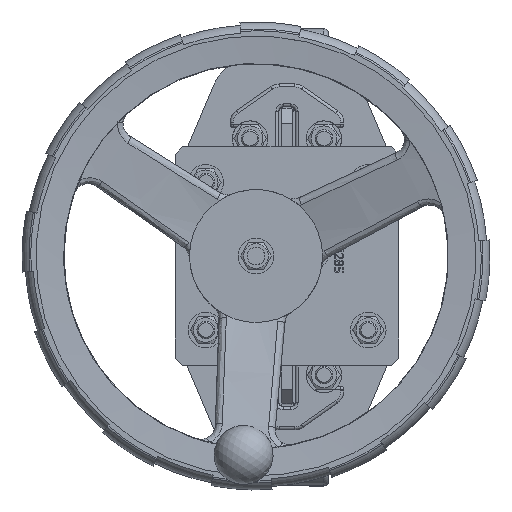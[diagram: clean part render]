
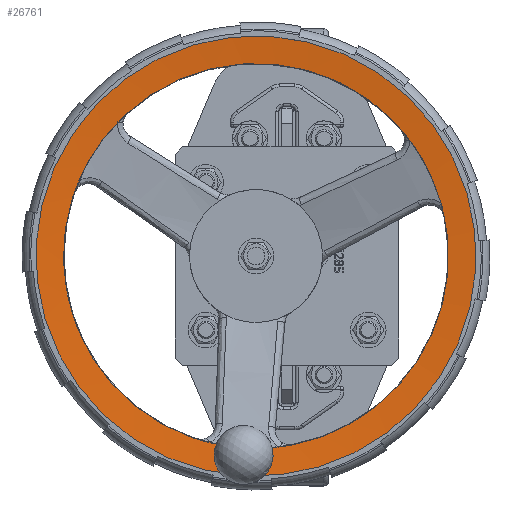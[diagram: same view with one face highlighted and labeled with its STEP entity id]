
A CAD part, top view. The second image highlights one B-rep face of the part: STEP entity #26761.
In plain terms, the highlighted conical face has half-angle 85 degrees and reference radius 139.655 mm.
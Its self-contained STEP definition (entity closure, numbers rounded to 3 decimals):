
#390=B_SPLINE_CURVE_WITH_KNOTS('',3,(#42391,#42392,#42393,#42394,#42395,
#42396,#42397),.UNSPECIFIED.,.F.,.F.,(4,3,4),(-0.377,0.,0.165),
 .UNSPECIFIED.);
#393=B_SPLINE_CURVE_WITH_KNOTS('',3,(#42408,#42409,#42410,#42411,#42412,
#42413),.UNSPECIFIED.,.F.,.F.,(4,2,4),(4.701,4.866,
5.243),.UNSPECIFIED.);
#1514=LINE('',#42542,#3399);
#3399=VECTOR('',#32006,139.654);
#5284=(
BOUNDED_CURVE()
B_SPLINE_CURVE(2,(#42473,#42474,#42475),.UNSPECIFIED.,.F.,.F.)
B_SPLINE_CURVE_WITH_KNOTS((3,3),(30.11,30.242),
 .UNSPECIFIED.)
CURVE()
GEOMETRIC_REPRESENTATION_ITEM()
RATIONAL_B_SPLINE_CURVE((1.105,1.066,1.026))
REPRESENTATION_ITEM('')
);
#5285=(
BOUNDED_CURVE()
B_SPLINE_CURVE(2,(#42535,#42536,#42537),.UNSPECIFIED.,.F.,.F.)
B_SPLINE_CURVE_WITH_KNOTS((3,3),(0.043,0.176),
 .UNSPECIFIED.)
CURVE()
GEOMETRIC_REPRESENTATION_ITEM()
RATIONAL_B_SPLINE_CURVE((1.026,1.066,1.105))
REPRESENTATION_ITEM('')
);
#5386=CONICAL_SURFACE('',#28514,139.654,1.484);
#5682=FACE_OUTER_BOUND('',#7346,.T.);
#7346=EDGE_LOOP('',(#18158,#18159,#18160,#18161,#18162,#18163,#18164,#18165,
#18166,#18167,#18168));
#9089=CIRCLE('',#28503,147.454);
#9093=CIRCLE('',#28515,130.309);
#9094=CIRCLE('',#28516,149.);
#9095=CIRCLE('',#28517,149.);
#9096=CIRCLE('',#28518,130.309);
#10880=VERTEX_POINT('',#42340);
#10881=VERTEX_POINT('',#42341);
#10890=VERTEX_POINT('',#42389);
#10891=VERTEX_POINT('',#42390);
#10892=VERTEX_POINT('',#42402);
#10893=VERTEX_POINT('',#42407);
#10900=VERTEX_POINT('',#42539);
#10901=VERTEX_POINT('',#42541);
#10902=VERTEX_POINT('',#42543);
#13620=EDGE_CURVE('',#10880,#10881,#9089,.T.);
#13631=EDGE_CURVE('',#10890,#10891,#390,.T.);
#13634=EDGE_CURVE('',#10893,#10892,#393,.T.);
#13641=EDGE_CURVE('',#10891,#10880,#5284,.T.);
#13647=EDGE_CURVE('',#10881,#10893,#5285,.T.);
#13648=EDGE_CURVE('',#10892,#10900,#9093,.T.);
#13649=EDGE_CURVE('',#10900,#10901,#1514,.T.);
#13650=EDGE_CURVE('',#10902,#10901,#9094,.T.);
#13651=EDGE_CURVE('',#10901,#10902,#9095,.T.);
#13652=EDGE_CURVE('',#10900,#10890,#9096,.T.);
#18158=ORIENTED_EDGE('',*,*,#13631,.T.);
#18159=ORIENTED_EDGE('',*,*,#13641,.T.);
#18160=ORIENTED_EDGE('',*,*,#13620,.T.);
#18161=ORIENTED_EDGE('',*,*,#13647,.T.);
#18162=ORIENTED_EDGE('',*,*,#13634,.T.);
#18163=ORIENTED_EDGE('',*,*,#13648,.T.);
#18164=ORIENTED_EDGE('',*,*,#13649,.T.);
#18165=ORIENTED_EDGE('',*,*,#13650,.F.);
#18166=ORIENTED_EDGE('',*,*,#13651,.F.);
#18167=ORIENTED_EDGE('',*,*,#13649,.F.);
#18168=ORIENTED_EDGE('',*,*,#13652,.T.);
#26761=ADVANCED_FACE('',(#5682),#5386,.F.);
#28503=AXIS2_PLACEMENT_3D('',#42342,#31972,#31973);
#28514=AXIS2_PLACEMENT_3D('',#42538,#32002,#32003);
#28515=AXIS2_PLACEMENT_3D('',#42540,#32004,#32005);
#28516=AXIS2_PLACEMENT_3D('',#42544,#32007,#32008);
#28517=AXIS2_PLACEMENT_3D('',#42545,#32009,#32010);
#28518=AXIS2_PLACEMENT_3D('',#42546,#32011,#32012);
#31972=DIRECTION('center_axis',(0.,0.,
-1.));
#31973=DIRECTION('ref_axis',(-0.833,0.553,0.));
#32002=DIRECTION('center_axis',(0.,0.,
1.));
#32003=DIRECTION('ref_axis',(-0.833,0.553,0.));
#32004=DIRECTION('center_axis',(0.,0.,
-1.));
#32005=DIRECTION('ref_axis',(-0.833,0.553,0.));
#32006=DIRECTION('',(0.83,-0.551,0.087));
#32007=DIRECTION('center_axis',(0.,0.,
-1.));
#32008=DIRECTION('ref_axis',(-0.833,0.553,0.));
#32009=DIRECTION('center_axis',(0.,0.,
-1.));
#32010=DIRECTION('ref_axis',(-0.833,0.553,0.));
#32011=DIRECTION('center_axis',(0.,0.,
-1.));
#32012=DIRECTION('ref_axis',(-0.833,0.553,0.));
#42340=CARTESIAN_POINT('',(-15.187,-147.339,559.5));
#42341=CARTESIAN_POINT('',(-45.128,-145.467,559.5));
#42342=CARTESIAN_POINT('Origin',(-21.,0.,
559.5));
#42389=CARTESIAN_POINT('',(-15.137,-130.177,558.));
#42390=CARTESIAN_POINT('',(-14.457,-135.673,558.483));
#42391=CARTESIAN_POINT('Ctrl Pts',(-15.137,-130.177,
558.));
#42392=CARTESIAN_POINT('Ctrl Pts',(-14.733,-131.445,558.112));
#42393=CARTESIAN_POINT('Ctrl Pts',(-14.507,-132.753,558.228));
#42394=CARTESIAN_POINT('Ctrl Pts',(-14.446,-134.004,
558.337));
#42395=CARTESIAN_POINT('Ctrl Pts',(-14.419,-134.552,
558.385));
#42396=CARTESIAN_POINT('Ctrl Pts',(-14.422,-135.11,
558.434));
#42397=CARTESIAN_POINT('Ctrl Pts',(-14.457,-135.673,558.483));
#42402=CARTESIAN_POINT('',(-43.038,-128.432,558.));
#42407=CARTESIAN_POINT('',(-44.398,-133.8,558.483));
#42408=CARTESIAN_POINT('Ctrl Pts',(-44.398,-133.8,
558.483));
#42409=CARTESIAN_POINT('Ctrl Pts',(-44.363,-133.237,
558.434));
#42410=CARTESIAN_POINT('Ctrl Pts',(-44.296,-132.683,
558.385));
#42411=CARTESIAN_POINT('Ctrl Pts',(-43.985,-130.909,
558.228));
#42412=CARTESIAN_POINT('Ctrl Pts',(-43.598,-129.64,
558.112));
#42413=CARTESIAN_POINT('Ctrl Pts',(-43.038,-128.432,
558.));
#42473=CARTESIAN_POINT('Ctrl Pts',(-14.457,-135.673,558.483));
#42474=CARTESIAN_POINT('Ctrl Pts',(-14.807,-141.267,558.97));
#42475=CARTESIAN_POINT('Ctrl Pts',(-15.187,-147.339,
559.5));
#42535=CARTESIAN_POINT('Ctrl Pts',(-45.128,-145.467,
559.5));
#42536=CARTESIAN_POINT('Ctrl Pts',(-44.748,-139.394,
558.97));
#42537=CARTESIAN_POINT('Ctrl Pts',(-44.398,-133.8,
558.483));
#42538=CARTESIAN_POINT('Origin',(-21.,0.,
558.818));
#42539=CARTESIAN_POINT('',(87.563,-72.072,558.));
#42540=CARTESIAN_POINT('Origin',(-21.,0.,
558.));
#42541=CARTESIAN_POINT('',(103.135,-82.41,559.635));
#42542=CARTESIAN_POINT('',(95.349,-77.241,558.818));
#42543=CARTESIAN_POINT('',(-145.135,82.41,559.635));
#42544=CARTESIAN_POINT('Origin',(-21.,0.,
559.635));
#42545=CARTESIAN_POINT('Origin',(-21.,0.,
559.635));
#42546=CARTESIAN_POINT('Origin',(-21.,0.,
558.));
